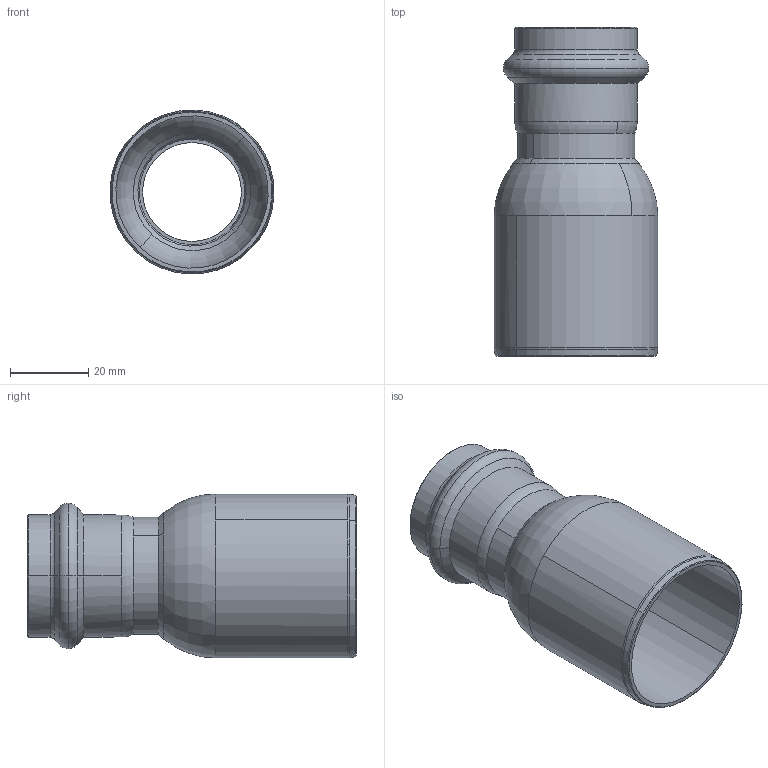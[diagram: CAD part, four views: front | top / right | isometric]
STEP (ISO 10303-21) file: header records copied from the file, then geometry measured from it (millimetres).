
FILE_DESCRIPTION(('CoCreate Modeling STEP Export'),'2;1');
FILE_NAME('8243VW4228.stp','2013-03-05T 9:39:30',(''),(''),'CoCreate Modeling STEP processor for AP214 (Solid Model)','CoCreate Modeling 17.00A 17-Jun-2010 (C) Parametric Technology GmbH','');
FILE_SCHEMA(('AUTOMOTIVE_DESIGN { 1 0 10303 214 1 1 1 1 }'));
Length unit declared in the file: millimetre
Products named in the file (1): 8243VW4228
Bounding box: 41.95 x 84.19 x 41.94 mm (x, y, z)
Volume: 16008.7 mm3; surface area: 19928.5 mm2
Topology: 1 solids, 1 shells, 62 faces, 164 edges, 106 vertices
Faces by surface type: torus 22, cylinder 18, cone 18, plane 4
Entity records: 1507 total; most frequent: ORIENTED_EDGE 328, CARTESIAN_POINT 230, DIRECTION 212, EDGE_CURVE 164, VERTEX_POINT 106, AXIS2_PLACEMENT_3D 88, EDGE_LOOP 66, FACE_OUTER_BOUND 62
